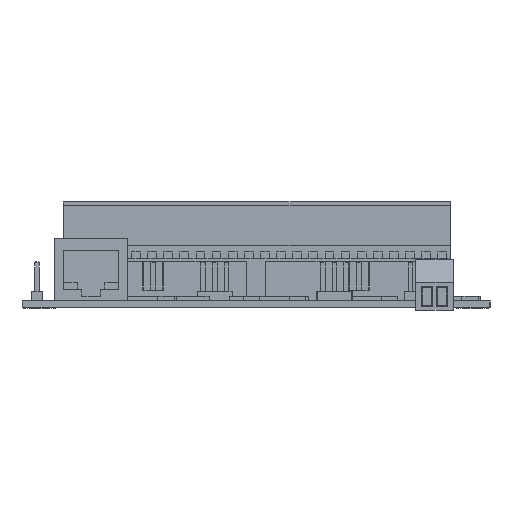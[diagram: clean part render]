
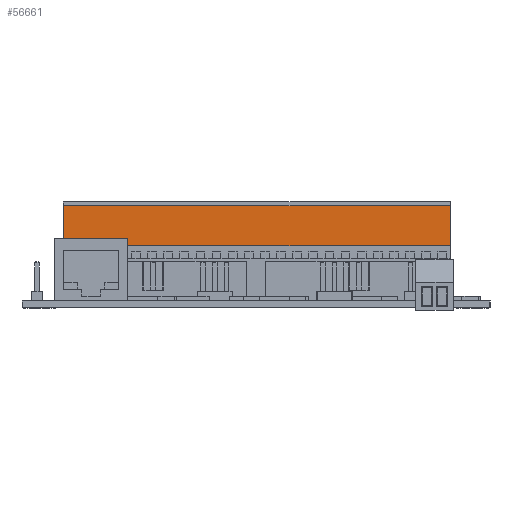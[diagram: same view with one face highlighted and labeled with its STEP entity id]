
A CAD part, left-side view. The second image highlights one B-rep face of the part: STEP entity #56661.
In plain terms, the highlighted planar face has unit normal (-1, 0, 0).
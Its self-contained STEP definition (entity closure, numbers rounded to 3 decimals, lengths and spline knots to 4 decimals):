
#5867=FACE_OUTER_BOUND('',#9273,.T.);
#9273=EDGE_LOOP('',(#45840,#45841,#45842,#45843));
#14777=LINE('',#84107,#21810);
#15091=LINE('',#84817,#22124);
#15225=LINE('',#85051,#22258);
#15226=LINE('',#85053,#22259);
#21810=VECTOR('',#68905,0.87);
#22124=VECTOR('',#69527,0.87);
#22258=VECTOR('',#69745,8.4);
#22259=VECTOR('',#69748,8.4);
#27927=VERTEX_POINT('',#84104);
#27928=VERTEX_POINT('',#84106);
#28169=VERTEX_POINT('',#84814);
#28170=VERTEX_POINT('',#84816);
#34031=EDGE_CURVE('',#27927,#27928,#14777,.T.);
#34363=EDGE_CURVE('',#28169,#28170,#15091,.T.);
#34501=EDGE_CURVE('',#27928,#28169,#15225,.T.);
#34502=EDGE_CURVE('',#27927,#28170,#15226,.T.);
#45840=ORIENTED_EDGE('',*,*,#34501,.F.);
#45841=ORIENTED_EDGE('',*,*,#34031,.F.);
#45842=ORIENTED_EDGE('',*,*,#34502,.T.);
#45843=ORIENTED_EDGE('',*,*,#34363,.F.);
#53716=PLANE('',#59996);
#56661=ADVANCED_FACE('',(#5867),#53716,.F.);
#59996=AXIS2_PLACEMENT_3D('',#85052,#69746,#69747);
#68905=DIRECTION('',(0.,0.,1.));
#69527=DIRECTION('',(0.,0.,-1.));
#69745=DIRECTION('',(0.,-1.,0.));
#69746=DIRECTION('center_axis',(1.,0.,0.));
#69747=DIRECTION('ref_axis',(0.,0.,1.));
#69748=DIRECTION('',(0.,-1.,0.));
#84104=CARTESIAN_POINT('',(-3.2239,4.0504,1.0275));
#84106=CARTESIAN_POINT('',(-3.2239,4.0504,1.8975));
#84107=CARTESIAN_POINT('',(-3.2239,4.0504,0.8875));
#84814=CARTESIAN_POINT('',(-3.2239,-4.3496,1.8975));
#84816=CARTESIAN_POINT('',(-3.2239,-4.3496,1.0275));
#84817=CARTESIAN_POINT('',(-3.2239,-4.3496,0.8875));
#85051=CARTESIAN_POINT('',(-3.2239,-3.9996,1.8975));
#85052=CARTESIAN_POINT('Origin',(-3.2239,-3.2996,1.0275));
#85053=CARTESIAN_POINT('',(-3.2239,-3.9996,1.0275));
